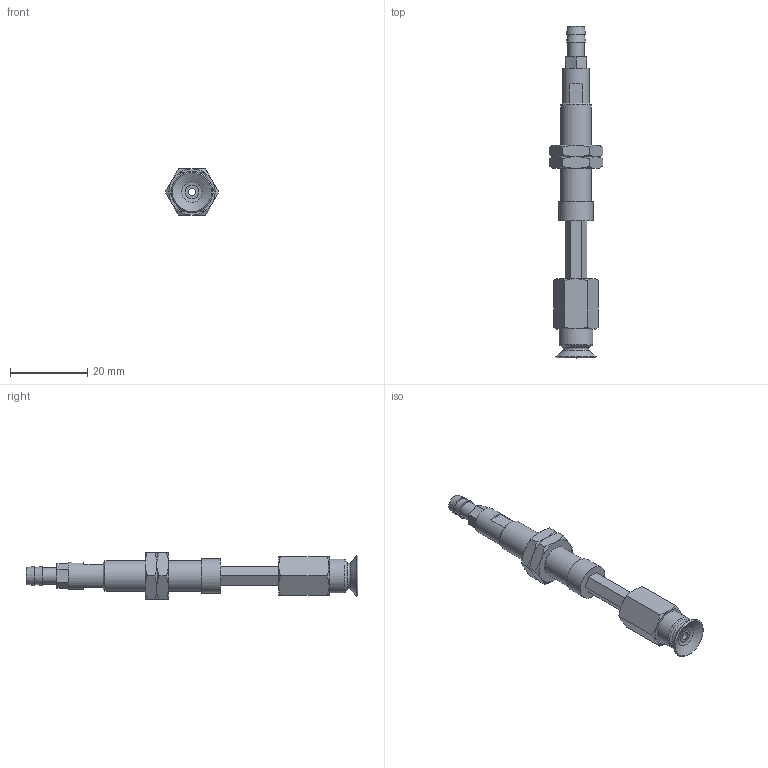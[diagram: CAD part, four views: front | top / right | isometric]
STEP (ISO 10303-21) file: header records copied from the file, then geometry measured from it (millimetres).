
FILE_DESCRIPTION(('STEP AP203'),'1');
FILE_NAME('-T.stp','2025-08-27T03:11:07',(' '),(' '),'Spatial InterOp 3D',' ',' ');
FILE_SCHEMA(('CONFIG_CONTROL_DESIGN'));
Length unit declared in the file: millimetre
Products named in the file (7): BNABPFTH-10A-15-※-T; ADAPTER; NAPATH-10A-15--M; Nut-10A-15-h; NAPFTH-10A-15-FBODY; BPFG-10A-※; T
Assembly tree (7 placements, depth 2):
  BNABPFTH-10A-15-※-T
    ADAPTER
    NAPATH-10A-15--M
    Nut-10A-15-h  x2
    NAPFTH-10A-15-FBODY
    BPFG-10A-※
    T
Bounding box: 13.86 x 86 x 12 mm (x, y, z)
Volume: 4104.3 mm3; surface area: 5130.6 mm2
Topology: 7 solids, 7 shells, 141 faces, 299 edges, 184 vertices
Faces by surface type: plane 66, cone 49, cylinder 17, torus 8, bspline 1
Full cylindrical faces by diameter (mm): 2 x3, 3 x1, 4 x2, 4.134 x1, 4.3 x1, 5 x1, 6 x2, 7 x1, 7.188 x2, 8 x1, 8.7 x1, 9 x1
Entity records: 3485 total; most frequent: CARTESIAN_POINT 795, DIRECTION 490, ORIENTED_EDGE 412, AXIS2_PLACEMENT_3D 207, EDGE_CURVE 206, EDGE_LOOP 178, VERTEX_POINT 148, FACE_OUTER_BOUND 143
